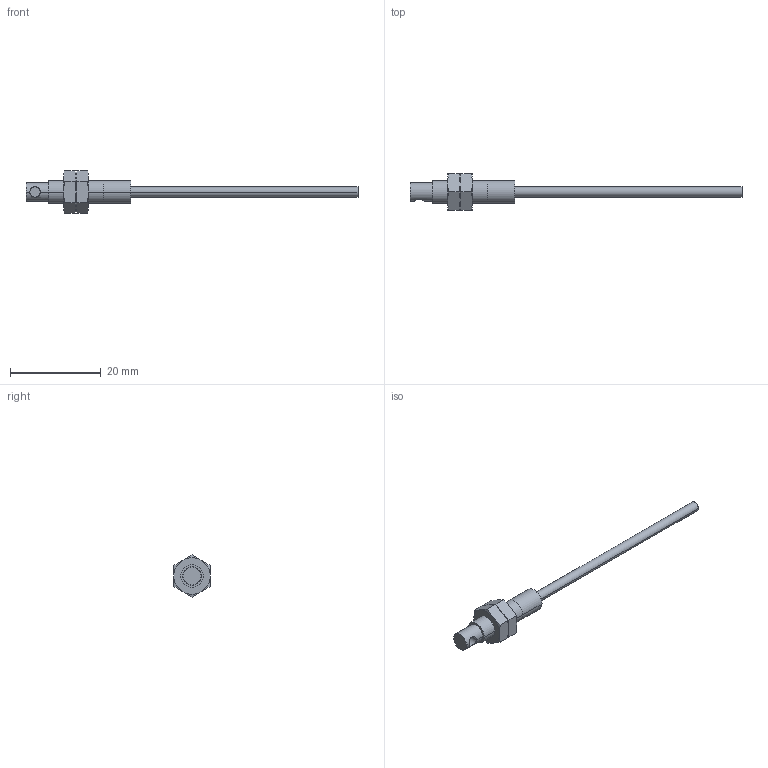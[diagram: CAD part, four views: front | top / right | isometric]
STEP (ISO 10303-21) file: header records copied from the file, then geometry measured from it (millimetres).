
FILE_DESCRIPTION((''),'2;1');
FILE_NAME('0000442342_ASM','2021-09-27T11:30:40',('11000804'),(''),'CREO PARAMETRIC BY PTC INC, 2019030','CREO PARAMETRIC BY PTC INC, 2019030','');
FILE_SCHEMA(('AUTOMOTIVE_DESIGN { 1 0 10303 214 1 1 1 1 }'));
Products named in the file (4): 0000442333; 0000442186; 0000040815; 0000442342_ASM
Assembly tree (4 placements, depth 2):
  0000442342_ASM
    0000442333
    0000442186
    0000040815  x2
Bounding box: 73 x 8 x 9.24 mm (x, y, z)
Volume: 817.3 mm3; surface area: 1364.4 mm2
Topology: 4 solids, 7 shells, 73 faces, 167 edges, 106 vertices
Faces by surface type: cone 32, plane 23, cylinder 18
Entity records: 259417 total; most frequent: CARTESIAN_POINT 211705, POLYLINE 42144, DIRECTION 659, PROPERTY_DEFINITION 429, REPRESENTATION 424, PROPERTY_DEFINITION_REPRESENTATION 424, DESCRIPTIVE_REPRESENTATION_ITEM 376, GENERAL_PROPERTY 358
